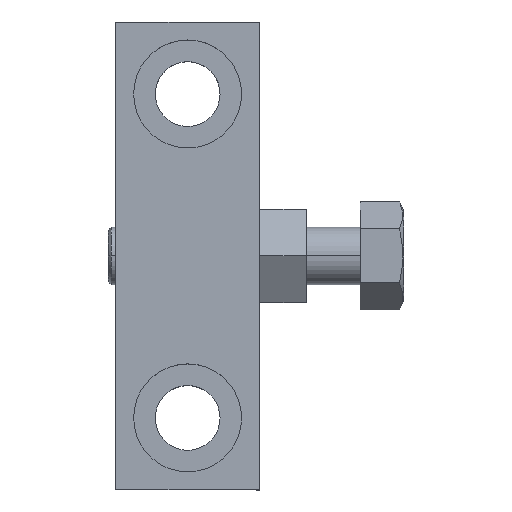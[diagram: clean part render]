
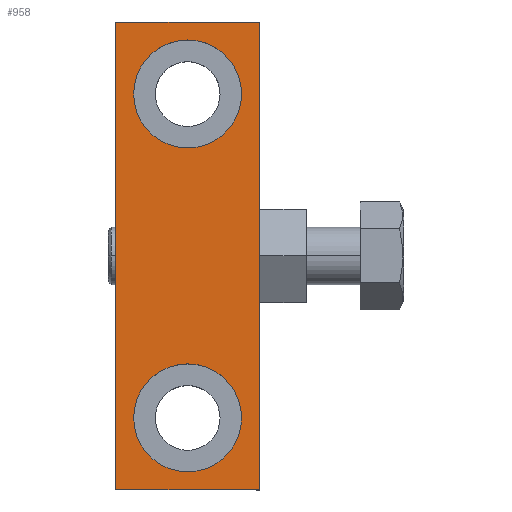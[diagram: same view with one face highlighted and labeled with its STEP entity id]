
A CAD part, top view. The second image highlights one B-rep face of the part: STEP entity #958.
In plain terms, the highlighted planar face has unit normal (0, 0, 1).
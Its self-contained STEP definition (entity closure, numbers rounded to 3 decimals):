
#7 = LINE ( 'NONE', #11, #14 ) ;
#11 = CARTESIAN_POINT ( 'NONE',  ( -10., 65., 7.5 ) ) ;
#12 = DIRECTION ( 'NONE',  ( 1., 0., 0. ) ) ;
#14 = VECTOR ( 'NONE', #12, 1000. ) ;
#19 = VECTOR ( 'NONE', #26, 1000. ) ;
#24 = LINE ( 'NONE', #27, #19 ) ;
#26 = DIRECTION ( 'NONE',  ( 1., 0., 0. ) ) ;
#27 = CARTESIAN_POINT ( 'NONE',  ( -10., 0., 7.5 ) ) ;
#28 = CARTESIAN_POINT ( 'NONE',  ( 10., 0., 7.5 ) ) ;
#48 = DIRECTION ( 'NONE',  ( 0., -1., 0. ) ) ;
#58 = VECTOR ( 'NONE', #48, 1000. ) ;
#59 = CARTESIAN_POINT ( 'NONE',  ( 10., 65., 7.5 ) ) ;
#60 = LINE ( 'NONE', #59, #58 ) ;
#84 = AXIS2_PLACEMENT_3D ( 'NONE', #98, #148, #91 ) ;
#89 = PLANE ( 'NONE',  #84 ) ;
#91 = DIRECTION ( 'NONE',  ( -1., 0., 0. ) ) ;
#94 = FACE_OUTER_BOUND ( 'NONE', #908, .T. ) ;
#98 = CARTESIAN_POINT ( 'NONE',  ( -10., 65., 7.5 ) ) ;
#109 = FACE_BOUND ( 'NONE', #1338, .T. ) ;
#119 = LINE ( 'NONE', #182, #172 ) ;
#137 = DIRECTION ( 'NONE',  ( 0., 0., 1. ) ) ;
#138 = DIRECTION ( 'NONE',  ( 1., 0., 0. ) ) ;
#139 = AXIS2_PLACEMENT_3D ( 'NONE', #149, #137, #138 ) ;
#145 = CIRCLE ( 'NONE', #139, 7.5 ) ;
#147 = FACE_BOUND ( 'NONE', #1340, .T. ) ;
#148 = DIRECTION ( 'NONE',  ( 0., 0., -1. ) ) ;
#149 = CARTESIAN_POINT ( 'NONE',  ( 0., 10., 7.5 ) ) ;
#150 = DIRECTION ( 'NONE',  ( 0., -1., 0. ) ) ;
#151 = CARTESIAN_POINT ( 'NONE',  ( 10., 65., 7.5 ) ) ;
#157 = CARTESIAN_POINT ( 'NONE',  ( -7.5, 55., 7.5 ) ) ;
#172 = VECTOR ( 'NONE', #150, 1000. ) ;
#173 = CARTESIAN_POINT ( 'NONE',  ( -10., 65., 7.5 ) ) ;
#182 = CARTESIAN_POINT ( 'NONE',  ( -10., 65., 7.5 ) ) ;
#349 = DIRECTION ( 'NONE',  ( 1., 0., 0. ) ) ;
#350 = DIRECTION ( 'NONE',  ( 0., 0., 1. ) ) ;
#351 = CARTESIAN_POINT ( 'NONE',  ( 0., 10., 7.5 ) ) ;
#352 = AXIS2_PLACEMENT_3D ( 'NONE', #351, #350, #349 ) ;
#377 = CARTESIAN_POINT ( 'NONE',  ( -7.5, 10., 7.5 ) ) ;
#382 = CIRCLE ( 'NONE', #352, 7.5 ) ;
#387 = CARTESIAN_POINT ( 'NONE',  ( 7.5, 10., 7.5 ) ) ;
#409 = CARTESIAN_POINT ( 'NONE',  ( -10., 0., 7.5 ) ) ;
#430 = CIRCLE ( 'NONE', #457, 7.5 ) ;
#441 = CARTESIAN_POINT ( 'NONE',  ( 0., 55., 7.5 ) ) ;
#457 = AXIS2_PLACEMENT_3D ( 'NONE', #441, #460, #459 ) ;
#459 = DIRECTION ( 'NONE',  ( 1., 0., 0. ) ) ;
#460 = DIRECTION ( 'NONE',  ( 0., 0., 1. ) ) ;
#547 = CARTESIAN_POINT ( 'NONE',  ( 0., 55., 7.5 ) ) ;
#556 = AXIS2_PLACEMENT_3D ( 'NONE', #547, #587, #586 ) ;
#557 = CIRCLE ( 'NONE', #556, 7.5 ) ;
#586 = DIRECTION ( 'NONE',  ( 1., 0., 0. ) ) ;
#587 = DIRECTION ( 'NONE',  ( 0., 0., 1. ) ) ;
#617 = CARTESIAN_POINT ( 'NONE',  ( 7.5, 55., 7.5 ) ) ;
#787 = VERTEX_POINT ( 'NONE', #617 ) ;
#823 = EDGE_CURVE ( 'NONE', #936, #787, #430, .T. ) ;
#894 = ORIENTED_EDGE ( 'NONE', *, *, #1311, .F. ) ;
#896 = ORIENTED_EDGE ( 'NONE', *, *, #914, .T. ) ;
#899 = EDGE_CURVE ( 'NONE', #1309, #900, #24, .T. ) ;
#900 = VERTEX_POINT ( 'NONE', #28 ) ;
#902 = ORIENTED_EDGE ( 'NONE', *, *, #907, .F. ) ;
#903 = EDGE_CURVE ( 'NONE', #916, #915, #7, .T. ) ;
#904 = ORIENTED_EDGE ( 'NONE', *, *, #903, .F. ) ;
#907 = EDGE_CURVE ( 'NONE', #915, #900, #60, .T. ) ;
#908 = EDGE_LOOP ( 'NONE', ( #1353, #902, #904, #896 ) ) ;
#911 = EDGE_CURVE ( 'NONE', #1310, #1298, #145, .T. ) ;
#914 = EDGE_CURVE ( 'NONE', #916, #1309, #119, .T. ) ;
#915 = VERTEX_POINT ( 'NONE', #151 ) ;
#916 = VERTEX_POINT ( 'NONE', #173 ) ;
#936 = VERTEX_POINT ( 'NONE', #157 ) ;
#953 = ORIENTED_EDGE ( 'NONE', *, *, #823, .F. ) ;
#954 = ORIENTED_EDGE ( 'NONE', *, *, #1364, .F. ) ;
#958 = ADVANCED_FACE ( 'NONE', ( #147, #109, #94 ), #89, .F. ) ;
#1298 = VERTEX_POINT ( 'NONE', #377 ) ;
#1309 = VERTEX_POINT ( 'NONE', #409 ) ;
#1310 = VERTEX_POINT ( 'NONE', #387 ) ;
#1311 = EDGE_CURVE ( 'NONE', #1298, #1310, #382, .T. ) ;
#1338 = EDGE_LOOP ( 'NONE', ( #1343, #894 ) ) ;
#1340 = EDGE_LOOP ( 'NONE', ( #954, #953 ) ) ;
#1343 = ORIENTED_EDGE ( 'NONE', *, *, #911, .F. ) ;
#1353 = ORIENTED_EDGE ( 'NONE', *, *, #899, .T. ) ;
#1364 = EDGE_CURVE ( 'NONE', #787, #936, #557, .T. ) ;
